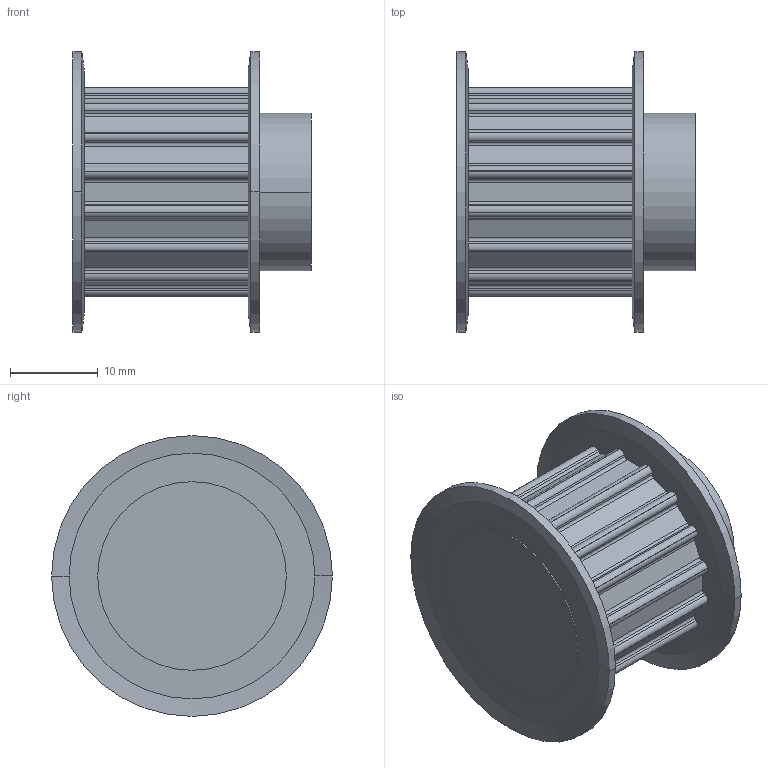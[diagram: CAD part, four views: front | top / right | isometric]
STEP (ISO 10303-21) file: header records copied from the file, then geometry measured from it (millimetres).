
FILE_DESCRIPTION( ( '' ), '1' );
FILE_NAME( 'C:/Users/Stangenbergd/Documents/CAD_Step/1/16631600.stp', '2021-10-19T09:36:02', ( '' ), ( '' ), ' ', ' ', ' ' );
FILE_SCHEMA( ( 'CONFIG_CONTROL_DESIGN' ) );
Length unit declared in the file: millimetre
Products named in the file (1): 1
Bounding box: 27.13 x 32 x 32 mm (x, y, z)
Volume: 10840.4 mm3; surface area: 4633.5 mm2
Topology: 1 solids, 1 shells, 169 faces, 478 edges, 316 vertices
Faces by surface type: plane 87, cylinder 74, cone 8
Entity records: 5548 total; most frequent: DIRECTION 974, CARTESIAN_POINT 964, ORIENTED_EDGE 956, EDGE_CURVE 478, AXIS2_PLACEMENT_3D 326, LINE 322, VECTOR 322, VERTEX_POINT 316
